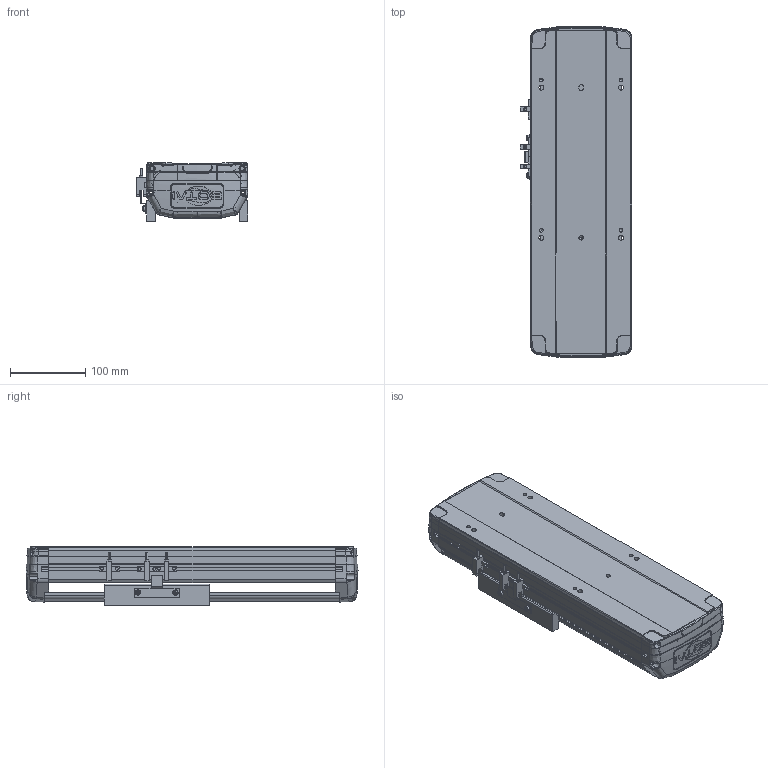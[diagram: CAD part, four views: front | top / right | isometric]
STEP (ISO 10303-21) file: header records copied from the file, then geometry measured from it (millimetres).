
FILE_DESCRIPTION (( 'STEP AP203' ), '1' );
FILE_NAME ('1.STEP', '2020-11-07T02:03:34', ( '' ), ( '' ), 'SwSTEP 2.0', 'SolidWorks 2016', '' );
FILE_SCHEMA (( 'CONFIG_CONTROL_DESIGN' ));
Length unit declared in the file: millimetre
Products named in the file (5): BTH14-M-菁釱; BTH14-M-04; 1; BTH14-M-HZ; BTH14-M-01
Assembly tree (7 placements, depth 2):
  1
    BTH14-M-菁釱
    BTH14-M-01  x2
    BTH14-M-04  x3
    BTH14-M-HZ
Bounding box: 148.7 x 442.04 x 78 mm (x, y, z)
Volume: 1852278.7 mm3; surface area: 475946.9 mm2
Topology: 11 solids, 11 shells, 1661 faces, 4638 edges, 3001 vertices
Faces by surface type: plane 773, bspline 388, cylinder 344, cone 104, torus 52
Entity records: 44087 total; most frequent: CARTESIAN_POINT 19670, ORIENTED_EDGE 5506, DIRECTION 4229, EDGE_CURVE 2753, VERTEX_POINT 1789, LINE 1425, VECTOR 1425, AXIS2_PLACEMENT_3D 1402
